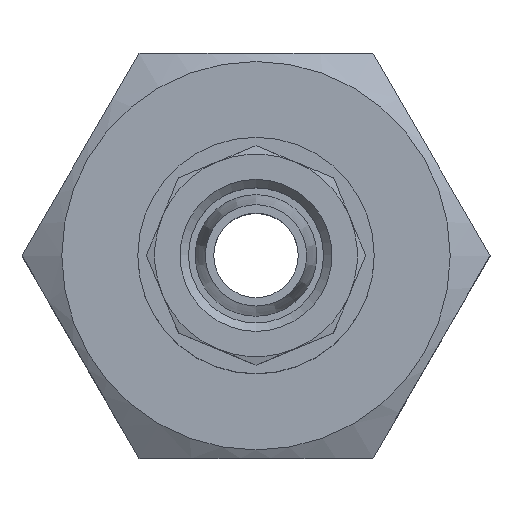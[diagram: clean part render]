
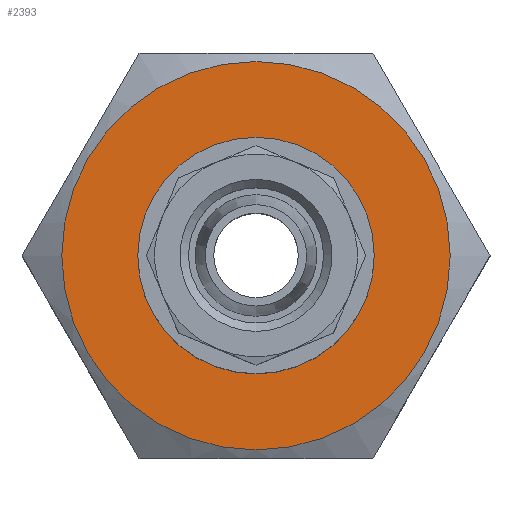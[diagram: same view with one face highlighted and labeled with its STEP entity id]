
A CAD part, top view. The second image highlights one B-rep face of the part: STEP entity #2393.
In plain terms, the highlighted planar face has unit normal (0, 0, 1) as drawn and (0, 1, 0) by its records, which use the part's own axes.
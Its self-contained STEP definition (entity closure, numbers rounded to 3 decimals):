
#1095=PLANE('',#2282);
#1189=ORIENTED_EDGE('',*,*,#1471,.F.);
#1190=ORIENTED_EDGE('',*,*,#1441,.T.);
#1331=CIRCLE('',#2233,5.35);
#1351=CIRCLE('',#2277,11.5);
#1372=VERTEX_POINT('',#2006);
#1398=VERTEX_POINT('',#2079);
#1441=EDGE_CURVE('',#1372,#1372,#1331,.T.);
#1471=EDGE_CURVE('',#1398,#1398,#1351,.T.);
#1570=EDGE_LOOP('',(#1189));
#1571=EDGE_LOOP('',(#1190));
#1656=FACE_BOUND('',#1570,.T.);
#1657=FACE_BOUND('',#1571,.T.);
#1713=DIRECTION('',(0.,-1.,0.));
#1714=DIRECTION('',(0.,0.,5.35));
#1804=DIRECTION('',(0.,-1.,0.));
#1805=DIRECTION('',(0.,0.,11.5));
#1814=DIRECTION('',(0.,1.,0.));
#1815=DIRECTION('',(1.,0.,0.));
#2006=CARTESIAN_POINT('',(25.647,32.789,5.35));
#2007=CARTESIAN_POINT('',(25.647,32.789,0.));
#2079=CARTESIAN_POINT('',(25.647,32.789,11.5));
#2080=CARTESIAN_POINT('',(25.647,32.789,0.));
#2088=CARTESIAN_POINT('',(37.147,32.789,0.));
#2233=AXIS2_PLACEMENT_3D('',#2007,#1713,#1714);
#2277=AXIS2_PLACEMENT_3D('',#2080,#1804,#1805);
#2282=AXIS2_PLACEMENT_3D('',#2088,#1814,#1815);
#2393=ADVANCED_FACE('',(#1656,#1657),#1095,.T.);
